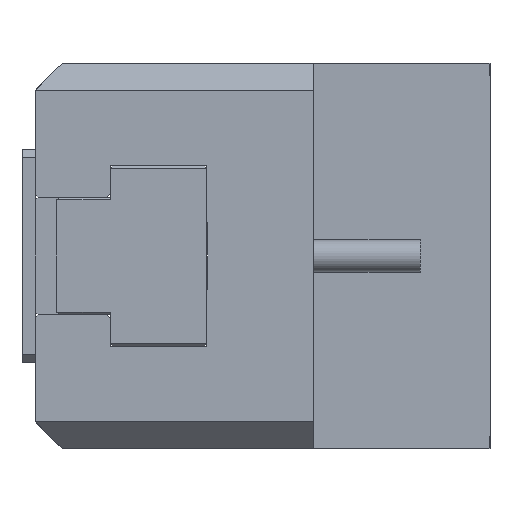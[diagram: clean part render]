
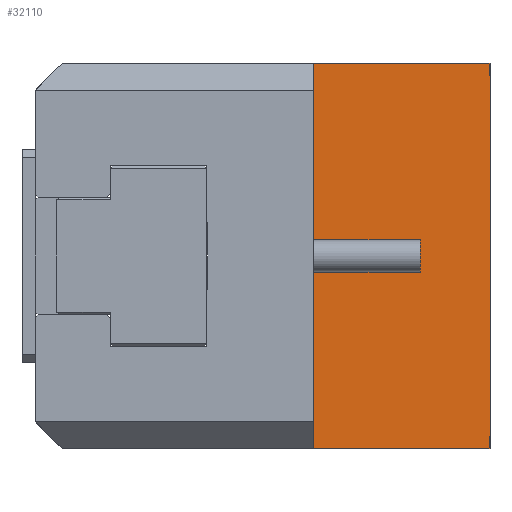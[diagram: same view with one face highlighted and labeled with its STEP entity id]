
A CAD part, left-side view. The second image highlights one B-rep face of the part: STEP entity #32110.
In plain terms, the highlighted planar face has unit normal (-1, 0, 0).
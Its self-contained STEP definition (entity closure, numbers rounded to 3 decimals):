
#384 = VECTOR ( 'NONE', #7145, 1000. ) ;
#1370 = CARTESIAN_POINT ( 'NONE',  ( -125., 66., 72. ) ) ;
#1929 = ORIENTED_EDGE ( 'NONE', *, *, #9204, .T. ) ;
#2063 = LINE ( 'NONE', #33051, #42708 ) ;
#2145 = VERTEX_POINT ( 'NONE', #5587 ) ;
#2778 = VERTEX_POINT ( 'NONE', #6041 ) ;
#3183 = CARTESIAN_POINT ( 'NONE',  ( -125., 66., 72. ) ) ;
#3896 = VERTEX_POINT ( 'NONE', #24002 ) ;
#5587 = CARTESIAN_POINT ( 'NONE',  ( -125., 66., -72. ) ) ;
#6041 = CARTESIAN_POINT ( 'NONE',  ( -125., 66., 72. ) ) ;
#7145 = DIRECTION ( 'NONE',  ( 0., -1., 0. ) ) ;
#9204 = EDGE_CURVE ( 'NONE', #3896, #24368, #45936, .T. ) ;
#9502 = DIRECTION ( 'NONE',  ( 0., -1., 0. ) ) ;
#12216 = VECTOR ( 'NONE', #13261, 1000. ) ;
#12834 = CARTESIAN_POINT ( 'NONE',  ( -125., 0., 72. ) ) ;
#13261 = DIRECTION ( 'NONE',  ( 0., 0., -1. ) ) ;
#18190 = CARTESIAN_POINT ( 'NONE',  ( -125., 66., 72. ) ) ;
#18367 = DIRECTION ( 'NONE',  ( 0., 0., -1. ) ) ;
#22601 = LINE ( 'NONE', #3183, #384 ) ;
#22698 = LINE ( 'NONE', #1370, #12216 ) ;
#24002 = CARTESIAN_POINT ( 'NONE',  ( -125., 0., -72. ) ) ;
#24368 = VERTEX_POINT ( 'NONE', #30342 ) ;
#25010 = VECTOR ( 'NONE', #48240, 1000. ) ;
#26769 = FACE_OUTER_BOUND ( 'NONE', #38301, .T. ) ;
#30342 = CARTESIAN_POINT ( 'NONE',  ( -125., 0., 72. ) ) ;
#30371 = ORIENTED_EDGE ( 'NONE', *, *, #47158, .T. ) ;
#32110 = ADVANCED_FACE ( 'NONE', ( #26769 ), #37952, .F. ) ;
#33051 = CARTESIAN_POINT ( 'NONE',  ( -125., 66., -72. ) ) ;
#37952 = PLANE ( 'NONE',  #47752 ) ;
#38301 = EDGE_LOOP ( 'NONE', ( #1929, #38610, #30371, #41872 ) ) ;
#38610 = ORIENTED_EDGE ( 'NONE', *, *, #49390, .F. ) ;
#40036 = EDGE_CURVE ( 'NONE', #2145, #3896, #2063, .T. ) ;
#41872 = ORIENTED_EDGE ( 'NONE', *, *, #40036, .T. ) ;
#41925 = DIRECTION ( 'NONE',  ( 1., 0., 0. ) ) ;
#42708 = VECTOR ( 'NONE', #9502, 1000. ) ;
#45936 = LINE ( 'NONE', #12834, #25010 ) ;
#47158 = EDGE_CURVE ( 'NONE', #2778, #2145, #22698, .T. ) ;
#47752 = AXIS2_PLACEMENT_3D ( 'NONE', #18190, #41925, #18367 ) ;
#48240 = DIRECTION ( 'NONE',  ( 0., 0., 1. ) ) ;
#49390 = EDGE_CURVE ( 'NONE', #2778, #24368, #22601, .T. ) ;
